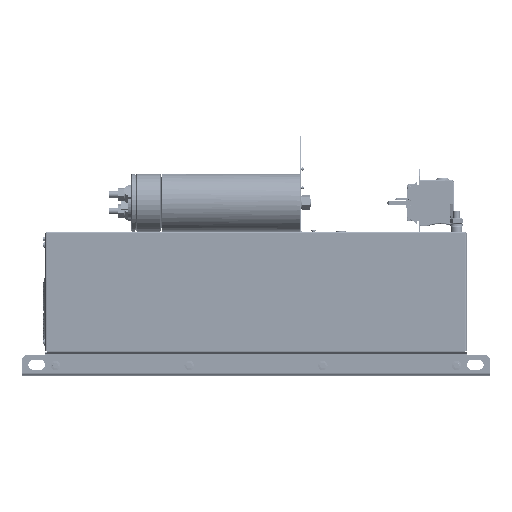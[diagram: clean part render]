
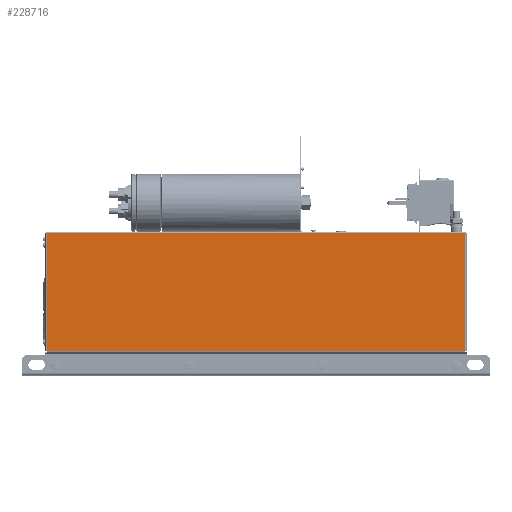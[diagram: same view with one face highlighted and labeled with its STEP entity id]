
A CAD part, left-side view. The second image highlights one B-rep face of the part: STEP entity #228716.
In plain terms, the highlighted planar face has unit normal (-1, 0, 0).
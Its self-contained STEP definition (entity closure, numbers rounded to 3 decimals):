
#13686=PLANE('',#243252);
#18989=FACE_OUTER_BOUND('',#32961,.T.);
#32961=EDGE_LOOP('',(#146240,#146241,#146242,#146243));
#47630=LINE('',#335798,#64608);
#47961=LINE('',#336692,#64939);
#48026=LINE('',#337390,#65004);
#48027=LINE('',#337391,#65005);
#64608=VECTOR('',#269270,10.);
#64939=VECTOR('',#269805,10.);
#65004=VECTOR('',#269978,10.);
#65005=VECTOR('',#269979,10.);
#90195=VERTEX_POINT('',#335791);
#90198=VERTEX_POINT('',#335796);
#90532=VERTEX_POINT('',#336678);
#90610=VERTEX_POINT('',#337389);
#110903=EDGE_CURVE('',#90195,#90198,#47630,.T.);
#111289=EDGE_CURVE('',#90198,#90532,#47961,.T.);
#111398=EDGE_CURVE('',#90195,#90610,#48026,.T.);
#111399=EDGE_CURVE('',#90610,#90532,#48027,.T.);
#146240=ORIENTED_EDGE('',*,*,#111398,.F.);
#146241=ORIENTED_EDGE('',*,*,#110903,.T.);
#146242=ORIENTED_EDGE('',*,*,#111289,.T.);
#146243=ORIENTED_EDGE('',*,*,#111399,.F.);
#228716=ADVANCED_FACE('',(#18989),#13686,.F.);
#243252=AXIS2_PLACEMENT_3D('',#337388,#269976,#269977);
#269270=DIRECTION('',(0.,1.,0.));
#269805=DIRECTION('',(0.,0.,-1.));
#269976=DIRECTION('center_axis',(1.,0.,0.));
#269977=DIRECTION('ref_axis',(0.,0.,
-1.));
#269978=DIRECTION('',(0.,0.,-1.));
#269979=DIRECTION('',(0.,1.,0.));
#335791=CARTESIAN_POINT('',(-225.,-312.7,212.7));
#335796=CARTESIAN_POINT('',(-225.,312.7,212.7));
#335798=CARTESIAN_POINT('',(-225.,315.,212.7));
#336678=CARTESIAN_POINT('',(-225.,312.7,36.353));
#336692=CARTESIAN_POINT('',(-225.,312.7,116.05));
#337388=CARTESIAN_POINT('Origin',(-225.,-315.,35.4));
#337389=CARTESIAN_POINT('',(-225.,-312.7,36.353));
#337390=CARTESIAN_POINT('',(-225.,-312.7,196.71));
#337391=CARTESIAN_POINT('',(-225.,-315.,36.353));
